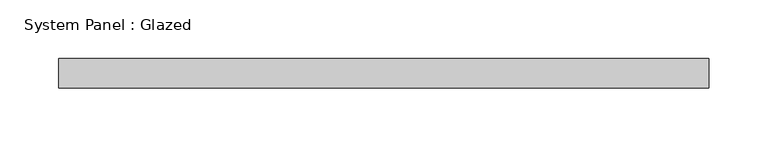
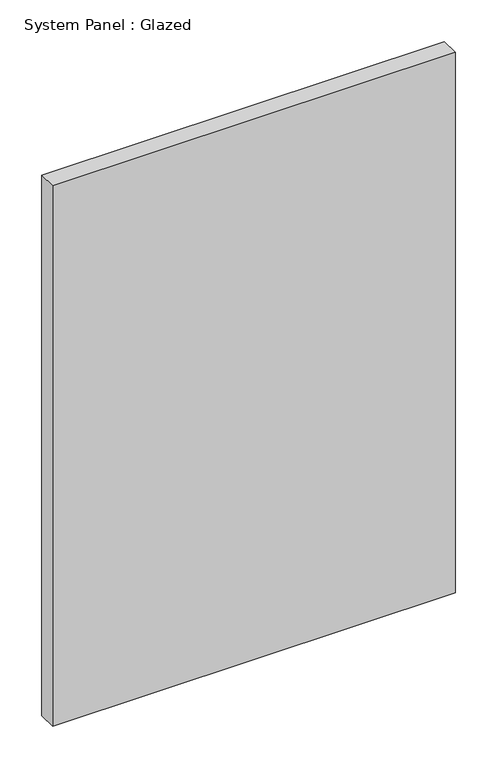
"""IFC4 building model written with IfcOpenShell, lengths in millimetres: plate geometry, System Panel : Glazed."""

from ifc_helpers import new_model, si_unit, origin, origin_with_axes, place, context, project, spatial, polyline, outline, extrude, source, transform, mapped, element, save


def system_panel_glazed_359e7c1e(model_context):
    return source(origin(), model_context, "Body", "SweptSolid", [
        extrude(outline(polyline([(277.3870768, -44.45), (-277.3870768, -44.45), (-277.3870768, -19.05), (277.3870768, -19.05), (277.3870768, -44.45)])), origin_with_axes(), (0.0, 0.0, 1.0), 787.4),
    ])


if __name__ == "__main__":
    model = new_model("IFC4")
    model_context = context("Model", 3, world=origin())
    ifc_project = project(units=[si_unit("LENGTHUNIT", "METRE", prefix="MILLI")], contexts=[model_context])
    site = spatial("IfcSite", under=ifc_project)
    building = spatial("IfcBuilding", under=site)
    placement = place(None, origin())
    system_panel_glazed_shape = system_panel_glazed_359e7c1e(model_context)
    element("IfcPlate", 1, ObjectType="System Panel : Glazed", at=placement, inside=building, context=model_context, shape_type="MappedRepresentation", body=[
        mapped(system_panel_glazed_shape, transform((0.0, 0.0, 0.0), x_axis=(1.0, 0.0, 0.0), y_axis=(0.0, 1.0, 0.0), z_axis=(0.0, 0.0, 1.0))),
    ])
    save(model, "model.ifc")
